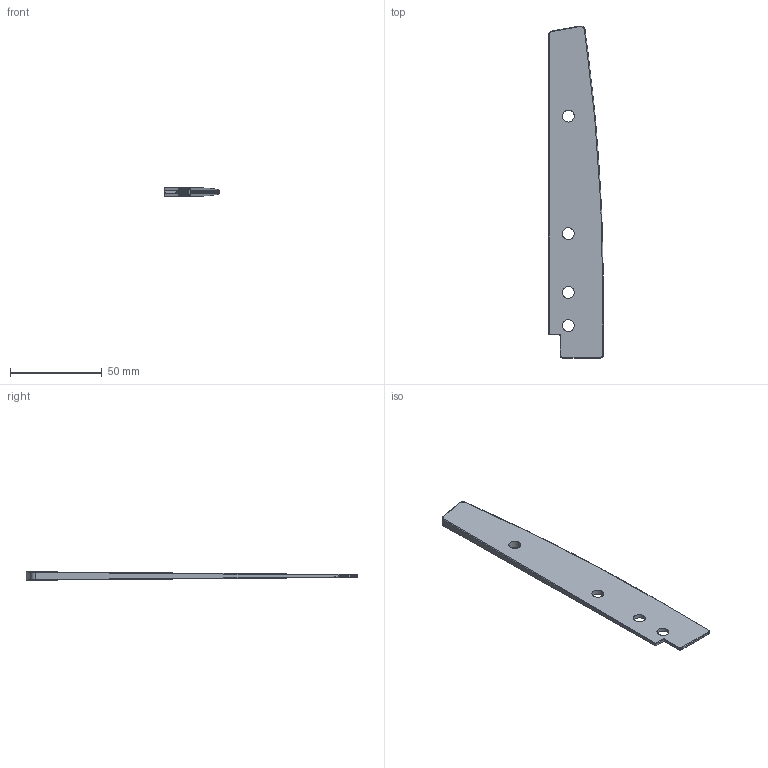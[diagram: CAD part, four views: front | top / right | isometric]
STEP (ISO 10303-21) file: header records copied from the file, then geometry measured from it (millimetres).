
FILE_DESCRIPTION (( 'STEP AP214' ), '1' );
FILE_NAME ('_.step', '2009-03-04T08:28:24', ( 'Netzwerkbenutzer' ), ( 'Grass GmbH' ), 'SwSTEP 2.0', 'SolidWorks 2008', '' );
FILE_SCHEMA (( 'AUTOMOTIVE_DESIGN' ));
Length unit declared in the file: millimetre
Products named in the file (1): _
Bounding box: 29.8 x 180.6 x 4.65 mm (x, y, z)
Volume: 13942.6 mm3; surface area: 10627.4 mm2
Topology: 1 solids, 1 shells, 49 faces, 115 edges, 66 vertices
Faces by surface type: cylinder 27, bspline 12, plane 8, sphere 2
Entity records: 1630 total; most frequent: CARTESIAN_POINT 637, ORIENTED_EDGE 226, DIRECTION 177, EDGE_CURVE 113, AXIS2_PLACEMENT_3D 66, VERTEX_POINT 66, EDGE_LOOP 57, FACE_OUTER_BOUND 49
